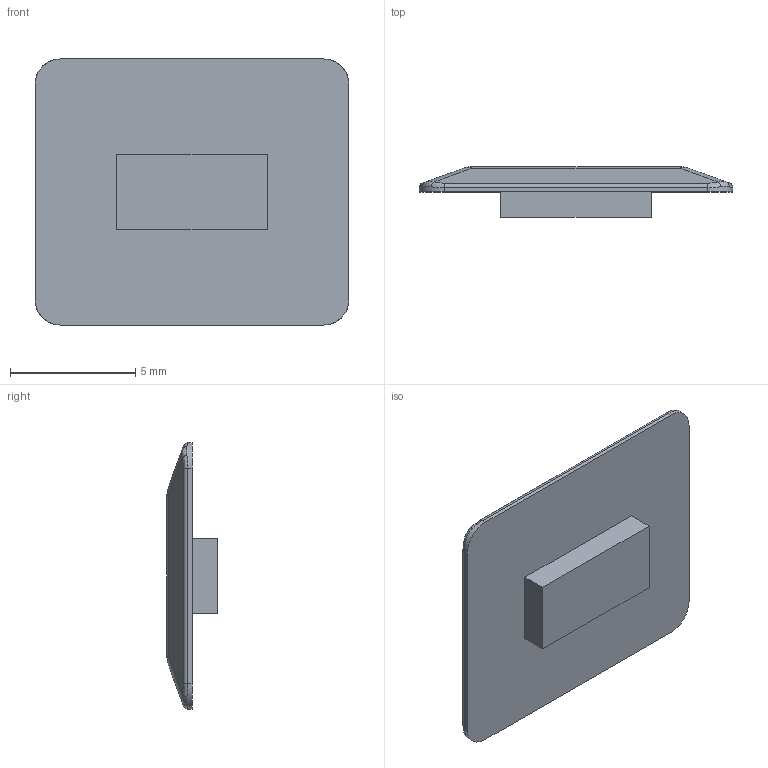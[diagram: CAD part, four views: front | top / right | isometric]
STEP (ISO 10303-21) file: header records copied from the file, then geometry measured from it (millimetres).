
FILE_DESCRIPTION (( 'STEP AP214' ), '1' );
FILE_NAME ('Abdeckkappe für U-Ausstanzung.STEP', '2010-06-29T11:52:48', ( 'grass' ), ( '' ), 'SwSTEP 2.0', 'SolidWorks 2009', '' );
FILE_SCHEMA (( 'AUTOMOTIVE_DESIGN' ));
Length unit declared in the file: millimetre
Products named in the file (1): Abdeckkappe f黵 U-Ausstanzung
Bounding box: 12.5 x 2 x 10.6 mm (x, y, z)
Volume: 122.3 mm3; surface area: 297.7 mm2
Topology: 1 solids, 1 shells, 47 faces, 108 edges, 60 vertices
Faces by surface type: cylinder 16, plane 15, bspline 12, sphere 4
Entity records: 1643 total; most frequent: CARTESIAN_POINT 608, ORIENTED_EDGE 208, DIRECTION 184, EDGE_CURVE 104, AXIS2_PLACEMENT_3D 68, VERTEX_POINT 60, EDGE_LOOP 48, VECTOR 48
